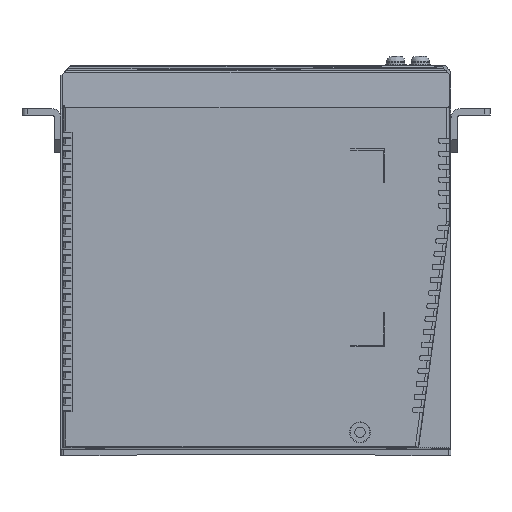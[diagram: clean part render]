
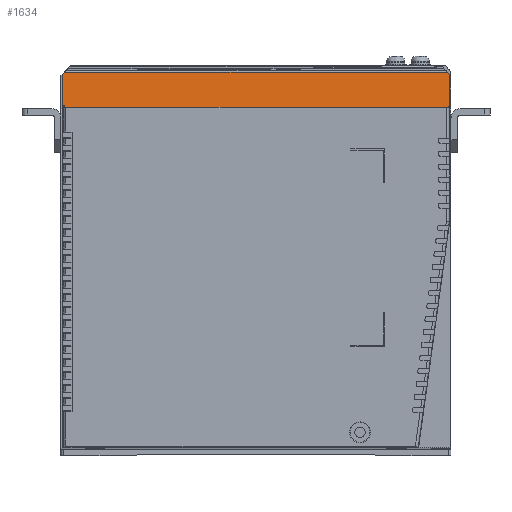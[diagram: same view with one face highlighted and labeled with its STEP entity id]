
A CAD part, left-side view. The second image highlights one B-rep face of the part: STEP entity #1634.
In plain terms, the highlighted planar face has unit normal (-0.998, 0, 0.07).
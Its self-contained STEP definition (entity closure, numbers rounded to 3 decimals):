
#1634 = ADVANCED_FACE( '', ( #4638 ), #4639, .F. );
#4638 = FACE_OUTER_BOUND( '', #9163, .T. );
#4639 = PLANE( '', #9164 );
#9163 = EDGE_LOOP( '', ( #14340, #14341, #14342, #14343, #14344, #14345, #14346, #14347, #14348, #14349 ) );
#9164 = AXIS2_PLACEMENT_3D( '', #14350, #14351, #14352 );
#14340 = ORIENTED_EDGE( '', *, *, #27753, .T. );
#14341 = ORIENTED_EDGE( '', *, *, #27754, .T. );
#14342 = ORIENTED_EDGE( '', *, *, #27755, .F. );
#14343 = ORIENTED_EDGE( '', *, *, #27756, .T. );
#14344 = ORIENTED_EDGE( '', *, *, #27423, .T. );
#14345 = ORIENTED_EDGE( '', *, *, #27757, .T. );
#14346 = ORIENTED_EDGE( '', *, *, #27758, .F. );
#14347 = ORIENTED_EDGE( '', *, *, #27759, .T. );
#14348 = ORIENTED_EDGE( '', *, *, #27760, .T. );
#14349 = ORIENTED_EDGE( '', *, *, #27761, .T. );
#14350 = CARTESIAN_POINT( '', ( -49.378, 149.48, -16.17 ) );
#14351 = DIRECTION( '', ( 0.998, 0., -0.07 ) );
#14352 = DIRECTION( '', ( -0.07, 0., -0.998 ) );
#27423 = EDGE_CURVE( '', #33035, #33033, #33036, .T. );
#27753 = EDGE_CURVE( '', #33622, #33623, #33624, .T. );
#27754 = EDGE_CURVE( '', #33623, #33625, #33626, .T. );
#27755 = EDGE_CURVE( '', #33627, #33625, #33628, .T. );
#27756 = EDGE_CURVE( '', #33627, #33035, #33629, .T. );
#27757 = EDGE_CURVE( '', #33033, #33630, #33631, .T. );
#27758 = EDGE_CURVE( '', #33632, #33630, #33633, .T. );
#27759 = EDGE_CURVE( '', #33632, #33634, #33635, .T. );
#27760 = EDGE_CURVE( '', #33634, #33636, #33637, .F. );
#27761 = EDGE_CURVE( '', #33636, #33622, #33638, .T. );
#33033 = VERTEX_POINT( '', #41218 );
#33035 = VERTEX_POINT( '', #41221 );
#33036 = LINE( '', #41222, #41223 );
#33622 = VERTEX_POINT( '', #42050 );
#33623 = VERTEX_POINT( '', #42051 );
#33624 = LINE( '', #42052, #42053 );
#33625 = VERTEX_POINT( '', #42054 );
#33626 = LINE( '', #42055, #42056 );
#33627 = VERTEX_POINT( '', #42057 );
#33628 = LINE( '', #42058, #42059 );
#33629 = LINE( '', #42060, #42061 );
#33630 = VERTEX_POINT( '', #42062 );
#33631 = LINE( '', #42063, #42064 );
#33632 = VERTEX_POINT( '', #42065 );
#33633 = ELLIPSE( '', #42066, 14.336, 1. );
#33634 = VERTEX_POINT( '', #42067 );
#33635 = LINE( '', #42068, #42069 );
#33636 = VERTEX_POINT( '', #42070 );
#33637 = ELLIPSE( '', #42071, 14.336, 1. );
#33638 = LINE( '', #42072, #42073 );
#41218 = CARTESIAN_POINT( '', ( -49.339, 149.269, -15.614 ) );
#41221 = CARTESIAN_POINT( '', ( -48.491, 149.299, -3.483 ) );
#41222 = CARTESIAN_POINT( '', ( -49.378, 149.268, -16.169 ) );
#41223 = VECTOR( '', #52352, 1000. );
#42050 = CARTESIAN_POINT( '', ( -49.366, 0.5, -16. ) );
#42051 = CARTESIAN_POINT( '', ( -48.502, 0.5, -3.644 ) );
#42052 = CARTESIAN_POINT( '', ( -49.378, 0.5, -16.17 ) );
#42053 = VECTOR( '', #52723, 1000. );
#42054 = CARTESIAN_POINT( '', ( -48.441, 1.379, -2.781 ) );
#42055 = CARTESIAN_POINT( '', ( -43.738, 69.82, 64.486 ) );
#42056 = VECTOR( '', #52724, 1000. );
#42057 = CARTESIAN_POINT( '', ( -48.441, 148.584, -2.781 ) );
#42058 = CARTESIAN_POINT( '', ( -48.441, 149.48, -2.781 ) );
#42059 = VECTOR( '', #52725, 1000. );
#42060 = CARTESIAN_POINT( '', ( -48.934, 155.749, -9.823 ) );
#42061 = VECTOR( '', #52726, 1000. );
#42062 = CARTESIAN_POINT( '', ( -49.339, 148.838, -15.614 ) );
#42063 = CARTESIAN_POINT( '', ( -49.339, 149.48, -15.614 ) );
#42064 = VECTOR( '', #52727, 1000. );
#42065 = CARTESIAN_POINT( '', ( -49.378, 148.812, -16.17 ) );
#42066 = AXIS2_PLACEMENT_3D( '', #52728, #52729, #52730 );
#42067 = CARTESIAN_POINT( '', ( -49.378, 0.984, -16.17 ) );
#42068 = CARTESIAN_POINT( '', ( -49.378, 149.48, -16.17 ) );
#42069 = VECTOR( '', #52731, 1000. );
#42070 = CARTESIAN_POINT( '', ( -49.366, 0.975, -16. ) );
#42071 = AXIS2_PLACEMENT_3D( '', #52732, #52733, #52734 );
#42072 = CARTESIAN_POINT( '', ( -49.366, 149.48, -16. ) );
#42073 = VECTOR( '', #52735, 1000. );
#52352 = DIRECTION( '', ( -0.07, -0.002, -0.998 ) );
#52723 = DIRECTION( '', ( 0.07, 0., 0.998 ) );
#52724 = DIRECTION( '', ( 0.049, 0.712, 0.7 ) );
#52725 = DIRECTION( '', ( 0., -1., 0. ) );
#52726 = DIRECTION( '', ( -0.049, 0.712, -0.7 ) );
#52727 = DIRECTION( '', ( 0., -1., 0. ) );
#52728 = CARTESIAN_POINT( '', ( -48.815, 147.986, -8.128 ) );
#52729 = DIRECTION( '', ( 0.998, 0., -0.07 ) );
#52730 = DIRECTION( '', ( 0.07, 0., 0.998 ) );
#52731 = DIRECTION( '', ( 0., -1., 0. ) );
#52732 = CARTESIAN_POINT( '', ( -48.8, 1.8, -7.909 ) );
#52733 = DIRECTION( '', ( 0.998, 0., -0.07 ) );
#52734 = DIRECTION( '', ( -0.07, 0., -0.998 ) );
#52735 = DIRECTION( '', ( 0., -1., 0. ) );
